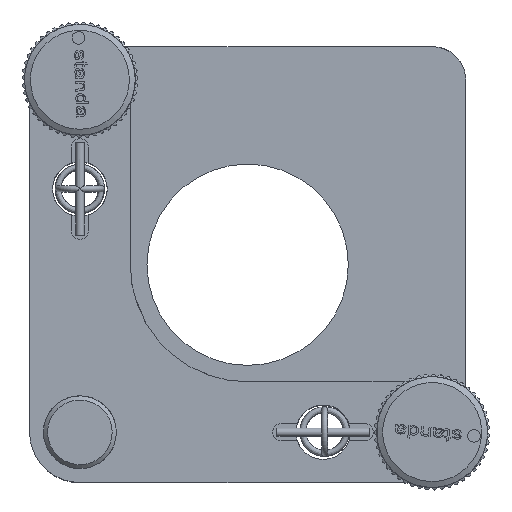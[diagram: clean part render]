
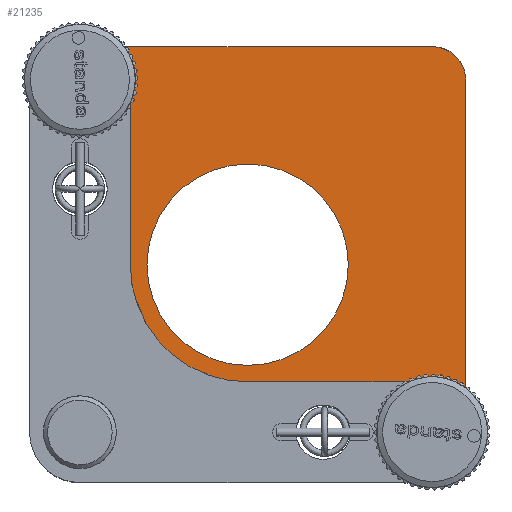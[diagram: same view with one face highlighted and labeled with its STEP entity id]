
A CAD part, top view. The second image highlights one B-rep face of the part: STEP entity #21235.
In plain terms, the highlighted planar face has unit normal (0, 0, 1).
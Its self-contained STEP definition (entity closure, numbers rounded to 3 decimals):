
#924=LINE($,#37020,#2316);
#966=LINE($,#37206,#2358);
#970=LINE($,#37218,#2362);
#972=LINE($,#37226,#2364);
#2316=VECTOR($,#24804,42.);
#2358=VECTOR($,#24960,42.);
#2362=VECTOR($,#24972,42.);
#2364=VECTOR($,#24982,42.);
#5278=PLANE($,#22498);
#5592=FACE_BOUND($,#7674,.T.);
#5593=FACE_BOUND($,#7675,.T.);
#5594=FACE_BOUND($,#7676,.T.);
#5595=FACE_BOUND($,#7677,.T.);
#5596=FACE_BOUND($,#7678,.T.);
#5597=FACE_BOUND($,#7679,.T.);
#5598=FACE_BOUND($,#7680,.T.);
#7674=EDGE_LOOP($,(#18027));
#7675=EDGE_LOOP($,(#18028));
#7676=EDGE_LOOP($,(#18029,#18030,#18031,#18032,#18033,#18034,#18035,#18036));
#7677=EDGE_LOOP($,(#18037));
#7678=EDGE_LOOP($,(#18038));
#7679=EDGE_LOOP($,(#18039));
#7680=EDGE_LOOP($,(#18040));
#8158=CIRCLE($,#21694,2.251);
#8354=CIRCLE($,#22318,12.);
#8364=CIRCLE($,#22330,3.25);
#8365=CIRCLE($,#22332,3.25);
#8384=CIRCLE($,#22371,4.);
#8386=CIRCLE($,#22376,4.);
#8388=CIRCLE($,#22380,4.);
#8389=CIRCLE($,#22383,4.);
#8406=CIRCLE($,#22497,3.75);
#8407=CIRCLE($,#22499,3.75);
#8538=VERTEX_POINT($,#27033);
#9459=VERTEX_POINT($,#37014);
#9461=VERTEX_POINT($,#37018);
#9462=VERTEX_POINT($,#37022);
#9476=VERTEX_POINT($,#37054);
#9477=VERTEX_POINT($,#37057);
#9508=VERTEX_POINT($,#37189);
#9509=VERTEX_POINT($,#37191);
#9514=VERTEX_POINT($,#37203);
#9515=VERTEX_POINT($,#37211);
#9518=VERTEX_POINT($,#37216);
#9519=VERTEX_POINT($,#37223);
#9904=VERTEX_POINT($,#39876);
#9905=VERTEX_POINT($,#39879);
#10730=EDGE_CURVE($,#8538,#8538,#8158,.T.);
#12085=EDGE_CURVE($,#9461,#9459,#924,.T.);
#12086=EDGE_CURVE($,#9462,#9462,#8354,.T.);
#12102=EDGE_CURVE($,#9476,#9476,#8364,.T.);
#12103=EDGE_CURVE($,#9477,#9477,#8365,.T.);
#12152=EDGE_CURVE($,#9508,#9509,#8384,.T.);
#12159=EDGE_CURVE($,#9509,#9514,#966,.T.);
#12161=EDGE_CURVE($,#9514,#9461,#8386,.T.);
#12165=EDGE_CURVE($,#9518,#9515,#970,.T.);
#12167=EDGE_CURVE($,#9459,#9518,#8388,.T.);
#12169=EDGE_CURVE($,#9519,#9508,#972,.T.);
#12171=EDGE_CURVE($,#9519,#9515,#8389,.T.);
#12750=EDGE_CURVE($,#9904,#9904,#8406,.T.);
#12751=EDGE_CURVE($,#9905,#9905,#8407,.T.);
#18027=ORIENTED_EDGE($,*,*,#10730,.F.);
#18028=ORIENTED_EDGE($,*,*,#12750,.F.);
#18029=ORIENTED_EDGE($,*,*,#12171,.T.);
#18030=ORIENTED_EDGE($,*,*,#12165,.F.);
#18031=ORIENTED_EDGE($,*,*,#12167,.F.);
#18032=ORIENTED_EDGE($,*,*,#12085,.F.);
#18033=ORIENTED_EDGE($,*,*,#12161,.F.);
#18034=ORIENTED_EDGE($,*,*,#12159,.F.);
#18035=ORIENTED_EDGE($,*,*,#12152,.F.);
#18036=ORIENTED_EDGE($,*,*,#12169,.F.);
#18037=ORIENTED_EDGE($,*,*,#12086,.T.);
#18038=ORIENTED_EDGE($,*,*,#12102,.T.);
#18039=ORIENTED_EDGE($,*,*,#12103,.T.);
#18040=ORIENTED_EDGE($,*,*,#12751,.F.);
#21235=ADVANCED_FACE($,(#5592,#5593,#5594,#5595,#5596,#5597,#5598),#5278,
 .F.);
#21694=AXIS2_PLACEMENT_3D($,#27034,#23027,#23028);
#22318=AXIS2_PLACEMENT_3D($,#37023,#24807,#24808);
#22330=AXIS2_PLACEMENT_3D($,#37055,#24837,#24838);
#22332=AXIS2_PLACEMENT_3D($,#37058,#24841,#24842);
#22371=AXIS2_PLACEMENT_3D($,#37192,#24948,#24949);
#22376=AXIS2_PLACEMENT_3D($,#37209,#24965,#24966);
#22380=AXIS2_PLACEMENT_3D($,#37221,#24977,#24978);
#22383=AXIS2_PLACEMENT_3D($,#37229,#24986,#24987);
#22497=AXIS2_PLACEMENT_3D($,#39877,#25543,#25544);
#22498=AXIS2_PLACEMENT_3D($,#39878,#25545,#25546);
#22499=AXIS2_PLACEMENT_3D($,#39880,#25547,#25548);
#23027=DIRECTION('center_axis',(0.,0.,
1.));
#23028=DIRECTION('ref_axis',(0.,1.,0.));
#24804=DIRECTION($,(0.,1.,0.));
#24807=DIRECTION('center_axis',(0.,0.,
-1.));
#24808=DIRECTION('ref_axis',(0.,1.,0.));
#24837=DIRECTION('center_axis',(0.,0.,
-1.));
#24838=DIRECTION('ref_axis',(0.,1.,0.));
#24841=DIRECTION('center_axis',(0.,0.,
-1.));
#24842=DIRECTION('ref_axis',(0.,1.,0.));
#24948=DIRECTION('center_axis',(0.,0.,
-1.));
#24949=DIRECTION('ref_axis',(0.707,-0.707,0.));
#24960=DIRECTION($,(-1.,0.,0.));
#24965=DIRECTION('center_axis',(0.,0.,
-1.));
#24966=DIRECTION('ref_axis',(-0.707,-0.707,0.));
#24972=DIRECTION($,(1.,0.,0.));
#24977=DIRECTION('center_axis',(0.,0.,
-1.));
#24978=DIRECTION('ref_axis',(-0.707,0.707,0.));
#24982=DIRECTION($,(0.,-1.,0.));
#24986=DIRECTION('center_axis',(0.,0.,
1.));
#24987=DIRECTION('ref_axis',(0.,-1.,0.));
#25543=DIRECTION('center_axis',(0.,0.,
1.));
#25544=DIRECTION('ref_axis',(0.,1.,0.));
#25545=DIRECTION('center_axis',(0.,0.,
-1.));
#25546=DIRECTION('ref_axis',(0.,1.,0.));
#25547=DIRECTION('center_axis',(0.,0.,
1.));
#25548=DIRECTION('ref_axis',(0.,1.,0.));
#27033=CARTESIAN_POINT('',(4.926,3.711,-3.5));
#27034=CARTESIAN_POINT('Origin',(4.926,5.962,-3.5));
#37014=CARTESIAN_POINT('',(0.926,47.962,-3.5));
#37018=CARTESIAN_POINT('',(0.926,5.962,-3.5));
#37020=CARTESIAN_POINT($,(0.926,1.962,-3.5));
#37022=CARTESIAN_POINT('',(24.926,13.962,-3.5));
#37023=CARTESIAN_POINT('Origin',(24.926,25.962,-3.5));
#37054=CARTESIAN_POINT('',(4.926,31.712,-3.5));
#37055=CARTESIAN_POINT('Origin',(4.926,34.962,-3.5));
#37057=CARTESIAN_POINT('',(33.926,2.712,-3.5));
#37058=CARTESIAN_POINT('Origin',(33.926,5.962,-3.5));
#37189=CARTESIAN_POINT('',(50.926,5.962,-3.5));
#37191=CARTESIAN_POINT('',(46.926,1.962,-3.5));
#37192=CARTESIAN_POINT('Origin',(46.926,5.962,-3.5));
#37203=CARTESIAN_POINT('',(4.926,1.962,-3.5));
#37206=CARTESIAN_POINT($,(50.926,1.962,-3.5));
#37209=CARTESIAN_POINT('Origin',(4.926,5.962,-3.5));
#37211=CARTESIAN_POINT('',(46.926,51.962,-3.5));
#37216=CARTESIAN_POINT('',(4.926,51.962,-3.5));
#37218=CARTESIAN_POINT($,(0.926,51.962,-3.5));
#37221=CARTESIAN_POINT('Origin',(4.926,47.962,-3.5));
#37223=CARTESIAN_POINT('',(50.926,47.962,-3.5));
#37226=CARTESIAN_POINT($,(50.926,51.962,-3.5));
#37229=CARTESIAN_POINT('Origin',(46.926,47.962,-3.5));
#39876=CARTESIAN_POINT('',(46.926,2.212,-3.5));
#39877=CARTESIAN_POINT('Origin',(46.926,5.962,-3.5));
#39878=CARTESIAN_POINT('Origin',(25.926,26.962,-3.5));
#39879=CARTESIAN_POINT('',(4.926,44.212,-3.5));
#39880=CARTESIAN_POINT('Origin',(4.926,47.962,-3.5));
